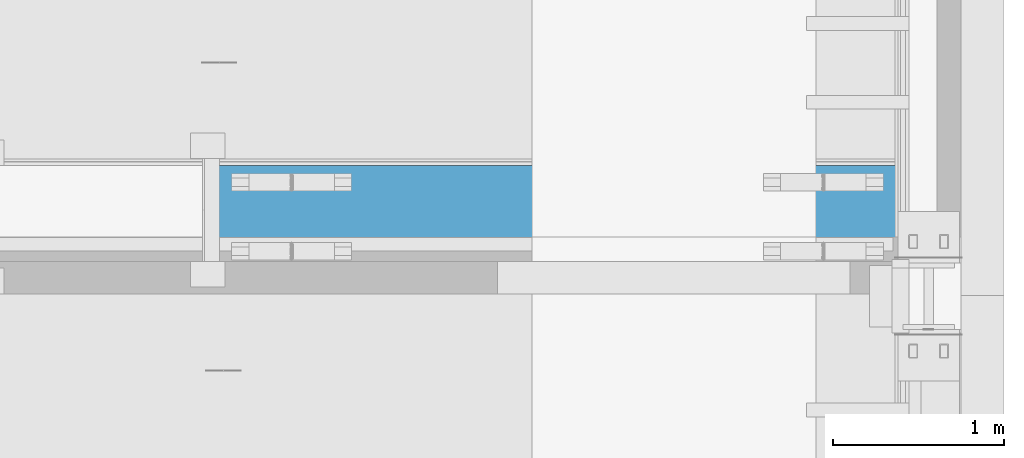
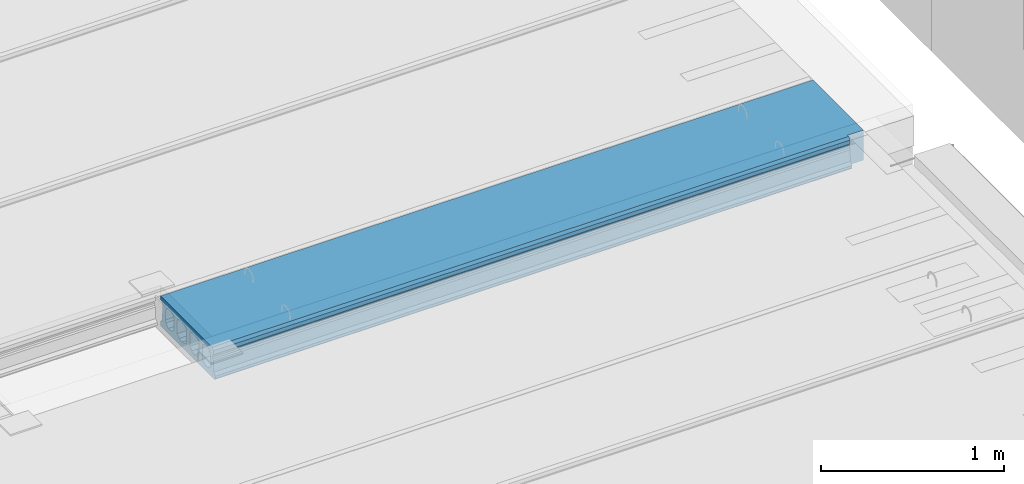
# One storey, part 98 of 230: 1 beam.
"""IFC4X3_ADD2 building model written with IfcOpenShell, lengths in millimetres."""

from ifc_helpers import new_model, si_unit, direction, origin_with_axes, place, context, subcontext, project, spatial, polygons, element, save


model = new_model("IFC4X3_ADD2")

# Units and contexts
model_context = context("Model", 3, precision=1e-05, world=origin_with_axes(), true_north=direction((0.0, 1.0)))
body_context = subcontext(model_context, "Body", "Model", "MODEL_VIEW")
ifc_project = project(units=[si_unit("LENGTHUNIT", "METRE", prefix="MILLI"), si_unit("AREAUNIT", "SQUARE_METRE"), si_unit("VOLUMEUNIT", "CUBIC_METRE"), si_unit("PLANEANGLEUNIT", "RADIAN"), si_unit("TIMEUNIT", "SECOND"), si_unit("MASSUNIT", "GRAM")], contexts=[model_context])

# Site, building, storey
site_placement = place(None, origin_with_axes())
site = spatial("IfcSite", under=ifc_project, at=site_placement, Name="Site", CompositionType="ELEMENT")
building_placement = place(site_placement, origin_with_axes())
building = spatial("IfcBuilding", under=site, at=building_placement, Name="IFC Building Story")
storey_placement = place(building_placement, origin_with_axes())
storey = spatial("IfcBuildingStorey", under=building, at=storey_placement, Name="ETAGE 00 (0)", Elevation=0.0)

# Beam
beam_placement = place(storey_placement, origin_with_axes())
element("IfcBeam", 1, at=beam_placement, inside=storey, Name="HOLLOWCORE SLAB", ObjectType="EB_SPN200", context=body_context, shape_type="Tessellation", body=[
    polygons([(44086.18900000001, 371.0000185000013, 3999.9999909), (44086.18900000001, 360.000018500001, 4012.9999909), (44086.18900000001, 360.000018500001, 4029.9999909), (44086.18900000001, 380.000018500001, 4044.9999909), (44086.18900000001, 381.4500307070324, 4119.9999909), (44086.18900000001, 388.9826399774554, 4128.676139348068), (44086.18900000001, 391.8399485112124, 4139.805000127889), (44086.18900000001, 389.4186549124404, 4151.036789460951), (44086.18900000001, 382.2299989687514, 4159.9999909), (44086.18900000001, 382.7113146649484, 4185.002769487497), (44086.18900000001, 398.0000185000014, 4199.9999909), (44086.18900000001, 960.0000000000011, 4199.9999909), (44086.18900000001, 959.970652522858, 4173.9999909), (44086.18900000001, 951.000442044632, 4172.130025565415), (44086.18900000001, 943.524572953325, 4166.831645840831), (44086.18900000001, 938.7884452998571, 4158.987505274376), (44086.18900000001, 937.581047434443, 4149.904354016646), (44086.18900000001, 945.0817401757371, 4047.854121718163), (44086.18900000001, 946.515079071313, 4042.477896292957), (44086.18900000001, 949.815096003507, 4037.998147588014), (44086.18900000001, 954.524691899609, 4035.035384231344), (44086.18900000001, 960.0000000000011, 4034.001598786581), (44086.18900000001, 960.0000000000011, 3999.9999909), (44086.18900000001, 904.7784551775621, 4132.648621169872), (44086.18900000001, 904.2623714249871, 4134.906763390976), (44086.18900000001, 903.48865377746, 4137.090088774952), (44086.18900000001, 902.467680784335, 4139.169310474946), (44086.18900000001, 889.000018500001, 4162.9999909), (44086.18900000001, 875.000018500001, 4172.9999909), (44086.18900000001, 857.968848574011, 4173.755090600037), (44086.18900000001, 841.4179446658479, 4169.66871024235), (44086.18900000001, 826.6953036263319, 4161.073667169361), (44086.18900000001, 815.000018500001, 4148.669989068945), (44086.18900000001, 815.000018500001, 4059.329992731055), (44086.18900000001, 826.695303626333, 4046.926314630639), (44086.18900000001, 841.4179446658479, 4038.331271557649), (44086.18900000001, 857.968848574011, 4034.244891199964), (44086.18900000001, 875.000018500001, 4034.9999909), (44086.18900000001, 886.000018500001, 4040.9999909), (44086.18900000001, 902.000018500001, 4056.9999909), (44086.18900000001, 908.000018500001, 4071.999990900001), (44086.18900000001, 905.029982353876, 4130.345952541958), (44086.18900000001, 728.0000185, 4173.999990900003), (44086.18900000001, 699.5280630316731, 4167.318792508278), (44086.18900000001, 677.000018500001, 4148.669989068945), (44086.18900000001, 677.000018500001, 4059.329992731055), (44086.18900000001, 699.5280630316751, 4040.681189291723), (44086.18900000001, 728.0000185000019, 4033.999990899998), (44086.18900000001, 756.4719739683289, 4040.681189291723), (44086.18900000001, 779.000018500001, 4059.329992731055), (44086.18900000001, 779.000018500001, 4148.669989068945), (44086.18900000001, 756.4719739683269, 4167.318792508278), (44086.18900000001, 590.000018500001, 4173.999990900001), (44086.18900000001, 561.528063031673, 4167.318792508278), (44086.18900000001, 539.000018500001, 4148.669989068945), (44086.18900000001, 539.000018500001, 4059.329992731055), (44086.18900000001, 561.5280630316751, 4040.681189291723), (44086.18900000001, 590.000018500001, 4033.999990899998), (44086.18900000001, 618.471973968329, 4040.681189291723), (44086.18900000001, 641.000018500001, 4059.329992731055), (44086.18900000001, 641.000018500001, 4148.669989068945), (44086.18900000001, 618.471973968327, 4167.318792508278), (44086.18900000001, 477.582092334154, 4169.668710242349), (44086.18900000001, 461.031188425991, 4173.755090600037), (44086.18900000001, 444.0000185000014, 4172.9999909), (44086.18900000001, 430.000018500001, 4162.9999909), (44086.18900000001, 416.5323714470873, 4139.169302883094), (44086.18900000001, 415.5114016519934, 4137.090085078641), (44086.18900000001, 414.7376861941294, 4134.906764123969), (44086.18900000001, 414.2216035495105, 4132.648626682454), (44086.18900000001, 413.9700763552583, 4130.345962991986), (44086.18900000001, 411.0000185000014, 4071.9999909), (44086.18900000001, 417.0000185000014, 4056.9999909), (44086.18900000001, 433.0000185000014, 4040.9999909), (44086.18900000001, 444.0000185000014, 4034.9999909), (44086.18900000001, 461.031188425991, 4034.244891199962), (44086.18900000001, 477.582092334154, 4038.331271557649), (44086.18900000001, 492.304733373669, 4046.926314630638), (44086.18900000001, 504.000018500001, 4059.329992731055), (44086.18900000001, 504.000018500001, 4148.669989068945), (44086.18900000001, 492.304733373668, 4161.073667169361), (48195.689, 410.000018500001, 4199.9999909), (48195.689, 410.000018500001, 3999.9999909), (48195.689, 960.0000000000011, 3999.9999909), (48195.689, 960.0085159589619, 4033.9999909), (48195.689, 954.524691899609, 4035.035384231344), (48195.689, 949.815096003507, 4037.998147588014), (48195.689, 946.515079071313, 4042.477896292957), (48195.689, 945.0817401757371, 4047.854121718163), (48195.689, 937.581047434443, 4149.904354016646), (48195.689, 938.7884452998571, 4158.987505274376), (48195.689, 943.524572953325, 4166.831645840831), (48195.689, 951.000442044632, 4172.130025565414), (48195.689, 960.0000000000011, 4173.9999909), (48195.689, 960.0000000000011, 4199.9999909), (48195.689, 904.7784551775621, 4132.648621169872), (48195.689, 905.029982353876, 4130.345952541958), (48195.689, 908.000018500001, 4071.9999909), (48195.689, 902.000018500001, 4056.9999909), (48195.689, 886.000018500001, 4040.9999909), (48195.689, 875.000018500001, 4034.9999909), (48195.689, 857.968848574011, 4034.244891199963), (48195.689, 841.4179446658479, 4038.33127155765), (48195.689, 826.695303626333, 4046.926314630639), (48195.689, 815.000018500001, 4059.329992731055), (48195.689, 815.000018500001, 4148.669989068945), (48195.689, 826.6953036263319, 4161.073667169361), (48195.689, 841.4179446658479, 4169.66871024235), (48195.689, 857.968848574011, 4173.755090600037), (48195.689, 875.000018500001, 4172.9999909), (48195.689, 889.000018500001, 4162.9999909), (48195.689, 902.467680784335, 4139.169310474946), (48195.689, 903.48865377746, 4137.090088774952), (48195.689, 904.2623714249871, 4134.906763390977), (48195.689, 728.0000185, 4173.999990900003), (48195.689, 756.4719739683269, 4167.318792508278), (48195.689, 779.000018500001, 4148.669989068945), (48195.689, 779.000018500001, 4059.329992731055), (48195.689, 756.4719739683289, 4040.681189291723), (48195.689, 728.0000185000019, 4033.999990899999), (48195.689, 699.5280630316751, 4040.681189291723), (48195.689, 677.000018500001, 4059.329992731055), (48195.689, 677.000018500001, 4148.669989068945), (48195.689, 699.5280630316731, 4167.318792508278), (48195.689, 590.000018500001, 4173.999990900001), (48195.689, 618.471973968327, 4167.318792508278), (48195.689, 641.000018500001, 4148.669989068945), (48195.689, 641.000018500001, 4059.329992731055), (48195.689, 618.471973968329, 4040.681189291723), (48195.689, 590.000018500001, 4033.999990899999), (48195.689, 561.5280630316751, 4040.681189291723), (48195.689, 539.000018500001, 4059.329992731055), (48195.689, 539.000018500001, 4148.669989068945), (48195.689, 561.528063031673, 4167.318792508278), (48195.689, 477.582092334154, 4169.668710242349), (48195.689, 492.304733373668, 4161.073667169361), (48195.689, 504.000018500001, 4148.669989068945), (48195.689, 504.000018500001, 4059.329992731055), (48195.689, 492.304733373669, 4046.926314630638), (48195.689, 477.582092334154, 4038.331271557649), (48195.689, 461.031188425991, 4034.244891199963), (48195.689, 444.0000185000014, 4034.9999909), (48195.689, 433.0000185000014, 4040.9999909), (48195.689, 417.0000185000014, 4056.9999909), (48195.689, 411.0000185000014, 4071.9999909), (48195.689, 413.9700763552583, 4130.345962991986), (48195.689, 414.2216035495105, 4132.648626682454), (48195.689, 414.7376861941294, 4134.906764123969), (48195.689, 415.5114016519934, 4137.090085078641), (48195.689, 416.5323714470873, 4139.169302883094), (48195.689, 430.000018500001, 4162.9999909), (48195.689, 444.0000185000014, 4172.9999909), (48195.689, 461.031188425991, 4173.755090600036), (48095.689, 410.000018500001, 3999.9999909), (48095.689, 371.0000185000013, 3999.9999909), (48095.689, 360.000018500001, 4012.9999909), (48095.689, 360.000018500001, 4029.9999909), (48095.689, 380.000018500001, 4044.9999909), (48095.689, 381.4500307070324, 4119.9999909), (48095.689, 388.9826399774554, 4128.676139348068), (48095.689, 391.8399485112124, 4139.805000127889), (48095.689, 389.4186549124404, 4151.036789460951), (48095.689, 382.2299989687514, 4159.9999909), (48095.689, 382.7113146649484, 4185.002769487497), (48095.689, 398.0000185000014, 4199.9999909), (48095.689, 410.000018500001, 4199.9999909), (44086.18900000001, 960.0000000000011, 4174.006108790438), (48195.689, 959.970652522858, 4173.9999909), (44086.18900000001, 960.0085159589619, 4033.9999909), (48195.689, 960.000000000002, 4034.001598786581), (44086.18900000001, 960.0000000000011, 4173.993912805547), (48195.689, 960.0000000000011, 4174.006108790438), (48195.689, 960.0000000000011, 4033.9999909)], [[[53, 11, 12]], [[12, 62, 53]], [[61, 62, 45]], [[45, 46, 60]], [[45, 60, 61]], [[62, 44, 45]], [[62, 43, 44]], [[62, 12, 43]], [[52, 43, 12]], [[27, 28, 16]], [[27, 16, 17]], [[17, 26, 27]], [[17, 25, 26]], [[17, 24, 25]], [[28, 15, 16]], [[31, 32, 51]], [[31, 51, 52]], [[52, 30, 31]], [[30, 52, 12]], [[12, 29, 30]], [[12, 15, 28]], [[12, 28, 29]], [[12, 14, 15]], [[12, 13, 14]], [[34, 35, 50]], [[50, 51, 33]], [[50, 33, 34]], [[51, 32, 33]], [[42, 24, 17]], [[17, 18, 41]], [[17, 41, 42]], [[18, 40, 41]], [[21, 22, 23]], [[23, 20, 21]], [[23, 19, 20]], [[19, 23, 39]], [[39, 40, 18]], [[39, 18, 19]], [[23, 38, 39]], [[23, 37, 38]], [[23, 49, 37]], [[49, 36, 37]], [[49, 50, 35]], [[49, 35, 36]], [[23, 48, 49]], [[23, 59, 48]], [[59, 47, 48]], [[59, 60, 46]], [[59, 46, 47]], [[23, 58, 59]], [[23, 1, 58]], [[1, 57, 58]], [[1, 56, 57]], [[8, 9, 10]], [[8, 10, 11]], [[66, 67, 7]], [[66, 7, 8]], [[66, 8, 11]], [[11, 65, 66]], [[11, 64, 65]], [[11, 63, 64]], [[70, 71, 6]], [[70, 6, 7]], [[7, 69, 70]], [[7, 68, 69]], [[7, 67, 68]], [[72, 73, 4]], [[4, 5, 6]], [[4, 6, 71]], [[4, 71, 72]], [[63, 11, 55]], [[55, 81, 63]], [[55, 80, 81]], [[55, 56, 79]], [[55, 79, 80]], [[56, 78, 79]], [[56, 77, 78]], [[77, 56, 1]], [[1, 76, 77]], [[1, 75, 76]], [[1, 74, 75]], [[1, 4, 73]], [[1, 73, 74]], [[1, 2, 3]], [[1, 3, 4]], [[11, 54, 55]], [[11, 53, 54]], [[99, 100, 89]], [[89, 98, 99]], [[89, 90, 97]], [[89, 97, 98]], [[90, 96, 97]], [[100, 88, 89]], [[114, 96, 90]], [[90, 113, 114]], [[90, 91, 112]], [[90, 112, 113]], [[93, 94, 95]], [[95, 92, 93]], [[92, 95, 111]], [[111, 112, 91]], [[111, 91, 92]], [[95, 110, 111]], [[95, 109, 110]], [[109, 95, 115]], [[115, 108, 109]], [[115, 107, 108]], [[118, 119, 105]], [[106, 107, 117]], [[117, 118, 105]], [[117, 105, 106]], [[107, 116, 117]], [[107, 115, 116]], [[119, 104, 105]], [[115, 95, 82]], [[82, 124, 115]], [[123, 124, 127]], [[127, 128, 122]], [[127, 122, 123]], [[124, 126, 127]], [[124, 125, 126]], [[124, 82, 125]], [[134, 125, 82]], [[82, 133, 134]], [[153, 135, 82]], [[82, 152, 153]], [[82, 151, 152]], [[82, 150, 151]], [[82, 149, 150]], [[82, 148, 149]], [[82, 147, 148]], [[82, 146, 147]], [[82, 145, 146]], [[82, 83, 145]], [[83, 144, 145]], [[83, 143, 144]], [[83, 142, 143]], [[83, 141, 142]], [[83, 140, 141]], [[83, 132, 140]], [[132, 139, 140]], [[132, 138, 139]], [[132, 133, 137]], [[132, 137, 138]], [[133, 136, 137]], [[133, 135, 136]], [[133, 82, 135]], [[83, 131, 132]], [[83, 130, 131]], [[83, 121, 130]], [[121, 129, 130]], [[121, 122, 128]], [[121, 128, 129]], [[83, 120, 121]], [[83, 103, 120]], [[103, 104, 119]], [[103, 119, 120]], [[83, 102, 103]], [[83, 84, 102]], [[84, 101, 102]], [[84, 88, 100]], [[84, 100, 101]], [[84, 87, 88]], [[84, 86, 87]], [[84, 85, 86]], [[154, 155, 1]], [[154, 1, 23]], [[23, 84, 154]], [[84, 83, 154]], [[2, 1, 155, 156]], [[3, 2, 156, 157]], [[4, 3, 157, 158]], [[5, 4, 158, 159]], [[6, 5, 159, 160]], [[7, 6, 160, 161]], [[8, 7, 161, 162]], [[9, 8, 162, 163]], [[10, 9, 163, 164]], [[11, 10, 164, 165]], [[166, 82, 95]], [[95, 12, 11]], [[95, 11, 166]], [[11, 165, 166]], [[14, 167, 168, 93]], [[15, 14, 93, 92]], [[16, 15, 92, 91]], [[17, 16, 91, 90]], [[18, 17, 90, 89]], [[19, 18, 89, 88]], [[20, 19, 88, 87]], [[21, 20, 87, 86]], [[169, 21, 86, 170]], [[25, 24, 96, 114]], [[26, 25, 114, 113]], [[27, 26, 113, 112]], [[28, 27, 112, 111]], [[29, 28, 111, 110]], [[30, 29, 110, 109]], [[31, 30, 109, 108]], [[32, 31, 108, 107]], [[33, 32, 107, 106]], [[34, 33, 106, 105]], [[35, 34, 105, 104]], [[36, 35, 104, 103]], [[37, 36, 103, 102]], [[38, 37, 102, 101]], [[39, 38, 101, 100]], [[40, 39, 100, 99]], [[41, 40, 99, 98]], [[42, 41, 98, 97]], [[24, 42, 97, 96]], [[44, 43, 115, 124]], [[45, 44, 124, 123]], [[46, 45, 123, 122]], [[47, 46, 122, 121]], [[48, 47, 121, 120]], [[49, 48, 120, 119]], [[50, 49, 119, 118]], [[51, 50, 118, 117]], [[52, 51, 117, 116]], [[43, 52, 116, 115]], [[54, 53, 125, 134]], [[55, 54, 134, 133]], [[56, 55, 133, 132]], [[57, 56, 132, 131]], [[58, 57, 131, 130]], [[59, 58, 130, 129]], [[60, 59, 129, 128]], [[61, 60, 128, 127]], [[62, 61, 127, 126]], [[53, 62, 126, 125]], [[64, 63, 135, 153]], [[65, 64, 153, 152]], [[66, 65, 152, 151]], [[67, 66, 151, 150]], [[68, 67, 150, 149]], [[69, 68, 149, 148]], [[70, 69, 148, 147]], [[71, 70, 147, 146]], [[72, 71, 146, 145]], [[73, 72, 145, 144]], [[74, 73, 144, 143]], [[75, 74, 143, 142]], [[76, 75, 142, 141]], [[77, 76, 141, 140]], [[78, 77, 140, 139]], [[79, 78, 139, 138]], [[80, 79, 138, 137]], [[81, 80, 137, 136]], [[63, 81, 136, 135]], [[83, 82, 166, 154]], [[158, 157, 156]], [[158, 156, 155]], [[158, 155, 154]], [[154, 160, 159]], [[154, 159, 158]], [[154, 161, 160]], [[154, 166, 161]], [[166, 162, 161]], [[166, 165, 164]], [[166, 164, 163]], [[166, 163, 162]], [[171, 12, 95, 172]], [[23, 22, 173, 84]]]),
])

save(model, "model.ifc")
